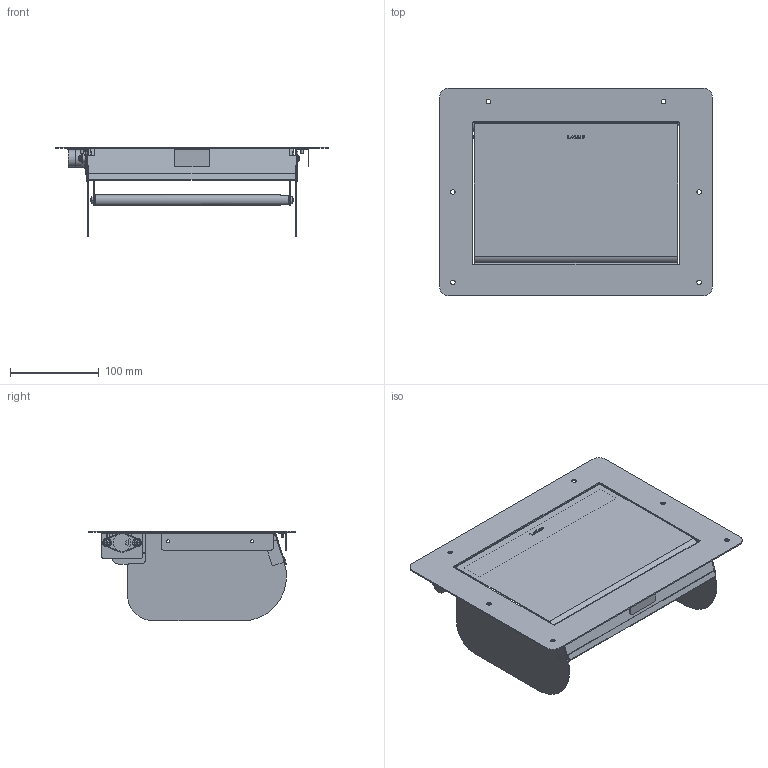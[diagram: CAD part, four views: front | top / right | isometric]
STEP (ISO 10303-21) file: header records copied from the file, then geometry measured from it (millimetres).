
FILE_DESCRIPTION (( 'STEP AP203' ), '1' );
FILE_NAME ('AZ-GD231-HL_3.step', '2017-11-20T00:35:49', ( '' ), ( '' ), 'SwSTEP 2.0', 'SolidWorks 2015', '' );
FILE_SCHEMA (( 'CONFIG_CONTROL_DESIGN' ));
Length unit declared in the file: millimetre
Products named in the file (15): SC210-06120_AZ-GD230(HL)_扉組立_AZ-GD231; SC210-06115_AZ-GD230(HL)_サイドブラケットR; SC210-06125_AZ-GD230(HL)_正面プレート_AZ-GD231; SC210-06114_AZ-GD230(HL)_サイドブラケットL; SC230-06119_AZ-GD230(HL)_扉本体_AZ-GD231; SC210-06123_AZ-GD230(HL)_L金具; SC210-17613_AZ-GD230L-HL_蓋金具; SC210-06113_AZ-GD230(HL)_下ガイド; SC210-06127_AZ-GD230(HL)_バランスウェイト; FYN-M1-R352_揺動ダンパー; SC210-06121_AZ-GD230(HL)_回転軸; 廫帤寠晅偒磐轜狙絖M4x10; 十字穴付きﾊﾞｲﾝﾄﾞ小ねじ_M04x10; AZ-GD231-HL_3; SC210-06118_AZ-GD230(HL)_両面テープ
Assembly tree (16 placements, depth 3):
  AZ-GD231-HL_3
    SC210-06125_AZ-GD230(HL)_正面プレート_AZ-GD231
    SC210-06120_AZ-GD230(HL)_扉組立_AZ-GD231
      SC230-06119_AZ-GD230(HL)_扉本体_AZ-GD231
      SC210-17613_AZ-GD230L-HL_蓋金具
      SC210-06127_AZ-GD230(HL)_バランスウェイト
      SC210-06121_AZ-GD230(HL)_回転軸
      十字穴付きﾊﾞｲﾝﾄﾞ小ねじ_M04x10  x2
      SC210-06118_AZ-GD230(HL)_両面テープ
    SC210-06115_AZ-GD230(HL)_サイドブラケットR
    SC210-06114_AZ-GD230(HL)_サイドブラケットL
    SC210-06123_AZ-GD230(HL)_L金具
    SC210-06113_AZ-GD230(HL)_下ガイド
    FYN-M1-R352_揺動ダンパー
    廫帤寠晅偒磐轜狙絖M4x10  x2
Bounding box: 308 x 234 x 101.5 mm (x, y, z)
Volume: 207069.6 mm3; surface area: 352614.2 mm2
Topology: 15 solids, 15 shells, 769 faces, 1817 edges, 1111 vertices
Faces by surface type: plane 414, cylinder 262, cone 47, torus 34, bspline 8, sphere 4
Entity records: 21731 total; most frequent: CARTESIAN_POINT 3724, DIRECTION 3556, ORIENTED_EDGE 3280, EDGE_CURVE 1640, AXIS2_PLACEMENT_3D 1285, VERTEX_POINT 1013, VECTOR 986, LINE 986
